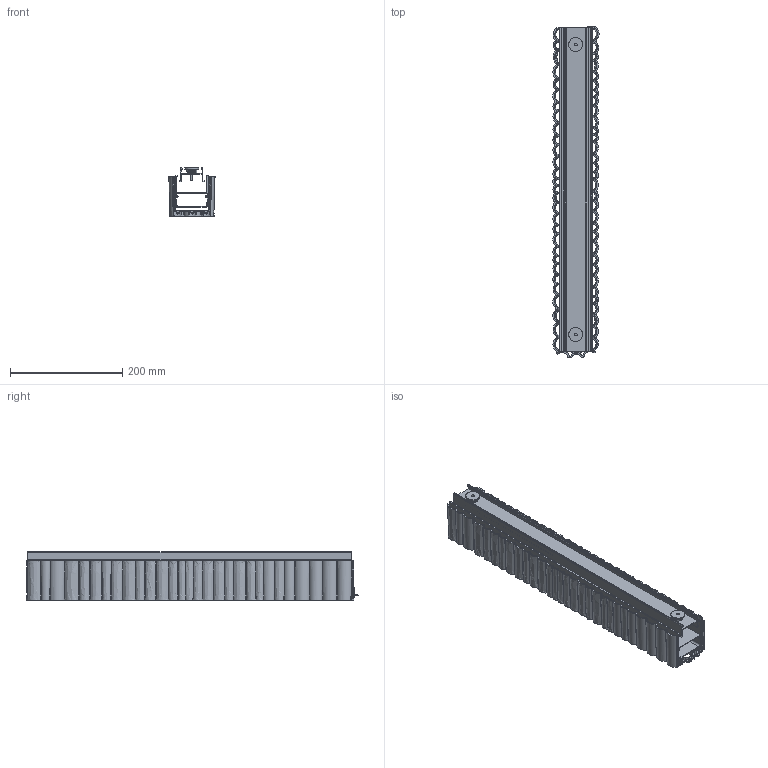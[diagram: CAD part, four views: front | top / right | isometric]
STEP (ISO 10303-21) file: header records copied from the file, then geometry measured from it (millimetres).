
FILE_DESCRIPTION(/* description */ (''),/* implementation_level */ '2;1');
FILE_NAME(/* name */ 'CALIPSO LINEAR SYS 60 CEILING',/* time_stamp */ '2019-08-02T16:51:36+02:00',/* author */ (''),/* organization */ (''),/* preprocessor_version */ 'ST-DEVELOPER v15',/* originating_system */ '',/* authorisation */ '');
FILE_SCHEMA (('AUTOMOTIVE_DESIGN'));
Length unit declared in the file: millimetre
Products named in the file (1): Document
Bounding box: 82.54 x 592.37 x 85.75 mm (x, y, z)
Volume: 340616 mm3; surface area: 659907.8 mm2
Topology: 7 solids, 11 shells, 1289 faces, 4001 edges, 2629 vertices
Faces by surface type: bspline 1085, plane 204
Entity records: 80300 total; most frequent: CARTESIAN_POINT 58333, ORIENTED_EDGE 7931, EDGE_CURVE 4001, VERTEX_POINT 2629, B_SPLINE_CURVE_WITH_KNOTS 2009, EDGE_LOOP 1550, ADVANCED_FACE 1280, FACE_OUTER_BOUND 1280
